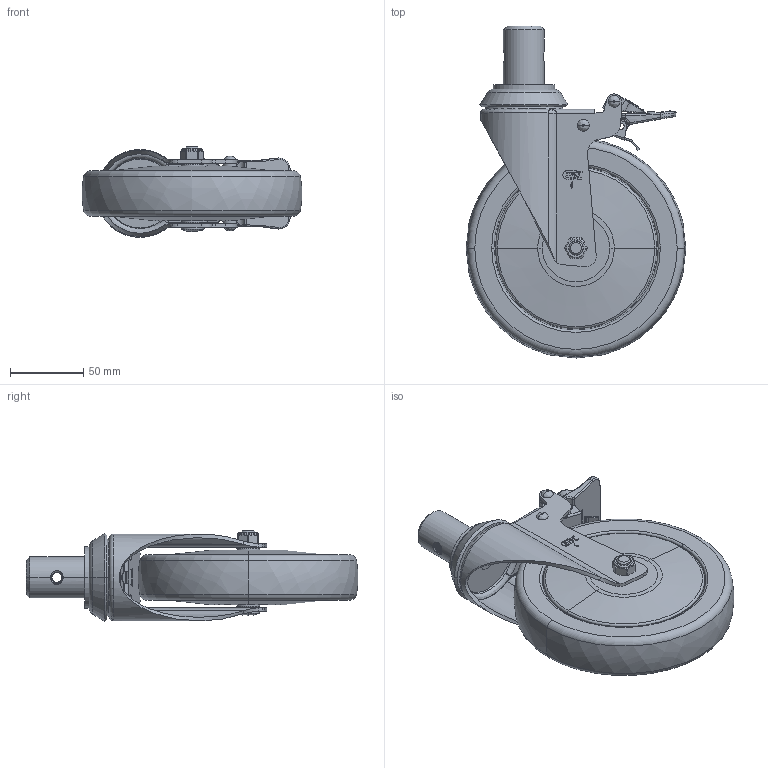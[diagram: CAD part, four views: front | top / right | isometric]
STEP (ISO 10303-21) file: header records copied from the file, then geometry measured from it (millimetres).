
FILE_DESCRIPTION((''),'2;1');
FILE_NAME('57266H-576-77_ASM','2021-01-05T',('lenovo'),(''),'PRO/ENGINEER BY PARAMETRIC TECHNOLOGY CORPORATION, 2010280','PRO/ENGINEER BY PARAMETRIC TECHNOLOGY CORPORATION, 2010280','');
FILE_SCHEMA(('CONFIG_CONTROL_DESIGN'));
Length unit declared in the file: millimetre
Products named in the file (10): 5710-055; 5726-321; 5720-211; 576-77; 5710-020; 5710-031; 570-64OFF; 5734-401; 571-64ON; 57266H-576-77_ASM
Assembly tree (9 placements, depth 2):
  57266H-576-77_ASM
    5710-055
    5726-321
    5720-211
    576-77
    5710-020
    5710-031
    570-64OFF
    5734-401
    571-64ON
Bounding box: 149.8 x 226.4 x 62 mm (x, y, z)
Volume: 681952.8 mm3; surface area: 117849.1 mm2
Topology: 9 solids, 9 shells, 875 faces, 2297 edges, 1460 vertices
Faces by surface type: plane 419, cylinder 242, bspline 113, cone 62, torus 35, sphere 4
Entity records: 36423 total; most frequent: CARTESIAN_POINT 15457, ORIENTED_EDGE 4586, DIRECTION 3975, EDGE_CURVE 2293, VERTEX_POINT 1460, AXIS2_PLACEMENT_3D 1359, VECTOR 1257, LINE 1257
